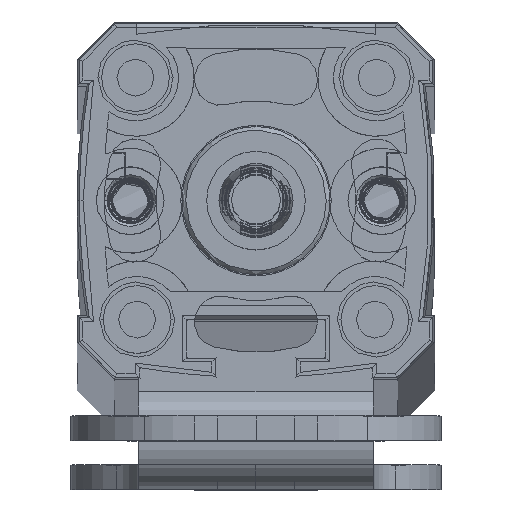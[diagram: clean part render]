
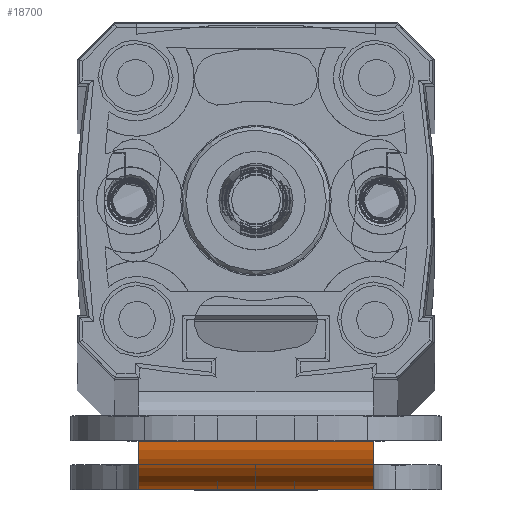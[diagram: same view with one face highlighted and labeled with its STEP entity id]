
A CAD part, top view. The second image highlights one B-rep face of the part: STEP entity #18700.
In plain terms, the highlighted cylindrical face has radius 4 mm (diameter 8 mm), a partial arc.
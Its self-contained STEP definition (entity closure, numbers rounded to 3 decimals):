
#788 = AXIS2_PLACEMENT_3D ( 'NONE', #29042, #3983, #24449 ) ;
#1075 = CARTESIAN_POINT ( 'NONE',  ( 9.512, -13., -173.797 ) ) ;
#1518 = CARTESIAN_POINT ( 'NONE',  ( 0., -9., -170. ) ) ;
#2914 = AXIS2_PLACEMENT_3D ( 'NONE', #6574, #11203, #9498 ) ;
#3860 = CIRCLE ( 'NONE', #15637, 4. ) ;
#3928 = VERTEX_POINT ( 'NONE', #16639 ) ;
#3983 = DIRECTION ( 'NONE',  ( 1., 0., 0. ) ) ;
#4700 = VECTOR ( 'NONE', #13036, 1000. ) ;
#5381 = CARTESIAN_POINT ( 'NONE',  ( 9.5, -12.985, -173.594 ) ) ;
#5456 = ORIENTED_EDGE ( 'NONE', *, *, #11310, .T. ) ;
#6061 = CARTESIAN_POINT ( 'NONE',  ( 9.537, -13., -174. ) ) ;
#6093 = ORIENTED_EDGE ( 'NONE', *, *, #12894, .F. ) ;
#6574 = CARTESIAN_POINT ( 'NONE',  ( 9.5, -9., -174. ) ) ;
#6896 = ORIENTED_EDGE ( 'NONE', *, *, #7874, .T. ) ;
#7094 = EDGE_CURVE ( 'NONE', #25185, #28900, #14895, .T. ) ;
#7874 = EDGE_CURVE ( 'NONE', #13549, #22922, #27993, .T. ) ;
#8648 = DIRECTION ( 'NONE',  ( 1., 0., 0. ) ) ;
#9176 = DIRECTION ( 'NONE',  ( 0., 0., -1. ) ) ;
#9425 = ORIENTED_EDGE ( 'NONE', *, *, #13863, .F. ) ;
#9498 = DIRECTION ( 'NONE',  ( 0., 0., -1. ) ) ;
#9892 = B_SPLINE_CURVE_WITH_KNOTS ( 'NONE', 3,
 ( #19145, #16840, #21749, #25899 ),
 .UNSPECIFIED., .F., .F.,
 ( 4, 4 ),
 ( 0., 0.001 ),
 .UNSPECIFIED. ) ;
#10639 = CARTESIAN_POINT ( 'NONE',  ( -9.5, -12.953, -173.392 ) ) ;
#11203 = DIRECTION ( 'NONE',  ( 1., 0., 0. ) ) ;
#11310 = EDGE_CURVE ( 'NONE', #22922, #3928, #14482, .T. ) ;
#12169 = ORIENTED_EDGE ( 'NONE', *, *, #28301, .T. ) ;
#12894 = EDGE_CURVE ( 'NONE', #26374, #25185, #3860, .T. ) ;
#12901 = FACE_OUTER_BOUND ( 'NONE', #29240, .T. ) ;
#13036 = DIRECTION ( 'NONE',  ( 1., 0., 0. ) ) ;
#13392 = CARTESIAN_POINT ( 'NONE',  ( 0., -13., -174. ) ) ;
#13549 = VERTEX_POINT ( 'NONE', #27388 ) ;
#13863 = EDGE_CURVE ( 'NONE', #28900, #3928, #26469, .T. ) ;
#14482 = B_SPLINE_CURVE_WITH_KNOTS ( 'NONE', 3,
 ( #17083, #1075, #5381, #14614 ),
 .UNSPECIFIED., .F., .F.,
 ( 4, 4 ),
 ( 0., 0.001 ),
 .UNSPECIFIED. ) ;
#14614 = CARTESIAN_POINT ( 'NONE',  ( 9.5, -12.953, -173.392 ) ) ;
#14895 = LINE ( 'NONE', #1518, #4700 ) ;
#15637 = AXIS2_PLACEMENT_3D ( 'NONE', #18244, #30209, #9176 ) ;
#16639 = CARTESIAN_POINT ( 'NONE',  ( 9.5, -12.953, -173.392 ) ) ;
#16840 = CARTESIAN_POINT ( 'NONE',  ( -9.5, -12.985, -173.594 ) ) ;
#17083 = CARTESIAN_POINT ( 'NONE',  ( 9.537, -13., -174. ) ) ;
#18244 = CARTESIAN_POINT ( 'NONE',  ( -9.5, -9., -174. ) ) ;
#18700 = ADVANCED_FACE ( 'NONE', ( #12901 ), #22152, .T. ) ;
#19145 = CARTESIAN_POINT ( 'NONE',  ( -9.5, -12.953, -173.392 ) ) ;
#21749 = CARTESIAN_POINT ( 'NONE',  ( -9.512, -13., -173.797 ) ) ;
#22152 = CYLINDRICAL_SURFACE ( 'NONE', #788, 4. ) ;
#22922 = VERTEX_POINT ( 'NONE', #6061 ) ;
#24449 = DIRECTION ( 'NONE',  ( 0., 0., -1. ) ) ;
#25185 = VERTEX_POINT ( 'NONE', #30048 ) ;
#25899 = CARTESIAN_POINT ( 'NONE',  ( -9.537, -13., -174. ) ) ;
#26313 = VECTOR ( 'NONE', #8648, 1000. ) ;
#26374 = VERTEX_POINT ( 'NONE', #10639 ) ;
#26469 = CIRCLE ( 'NONE', #2914, 4. ) ;
#26601 = ORIENTED_EDGE ( 'NONE', *, *, #7094, .F. ) ;
#27388 = CARTESIAN_POINT ( 'NONE',  ( -9.537, -13., -174. ) ) ;
#27993 = LINE ( 'NONE', #13392, #26313 ) ;
#28159 = CARTESIAN_POINT ( 'NONE',  ( 9.5, -9., -170. ) ) ;
#28301 = EDGE_CURVE ( 'NONE', #26374, #13549, #9892, .T. ) ;
#28900 = VERTEX_POINT ( 'NONE', #28159 ) ;
#29042 = CARTESIAN_POINT ( 'NONE',  ( 0., -9., -174. ) ) ;
#29240 = EDGE_LOOP ( 'NONE', ( #9425, #26601, #6093, #12169, #6896, #5456 ) ) ;
#30048 = CARTESIAN_POINT ( 'NONE',  ( -9.5, -9., -170. ) ) ;
#30209 = DIRECTION ( 'NONE',  ( -1., 0., 0. ) ) ;
